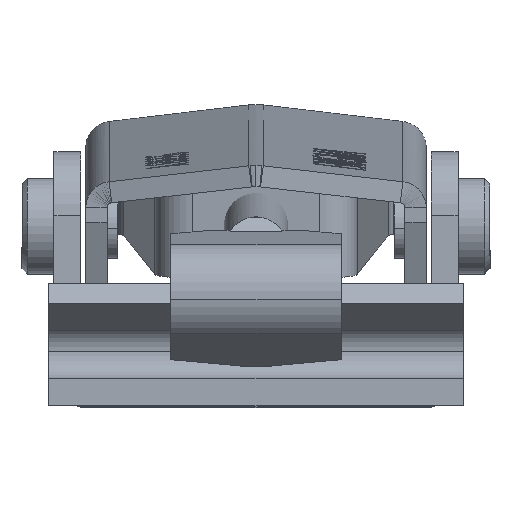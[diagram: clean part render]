
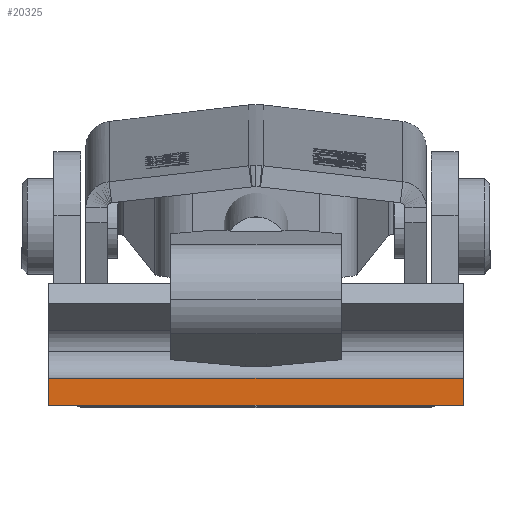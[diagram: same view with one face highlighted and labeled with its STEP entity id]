
A CAD part, top view. The second image highlights one B-rep face of the part: STEP entity #20325.
In plain terms, the highlighted planar face has unit normal (0, 0, 1).
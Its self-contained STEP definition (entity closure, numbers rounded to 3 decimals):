
#92 = DIRECTION ( 'NONE',  ( 0., 1., 0. ) ) ;
#162 = EDGE_CURVE ( 'NONE', #6212, #21099, #3795, .T. ) ;
#350 = EDGE_CURVE ( 'NONE', #6212, #4997, #7245, .T. ) ;
#1608 = CARTESIAN_POINT ( 'NONE',  ( -19.5, 0., 0. ) ) ;
#3155 = EDGE_CURVE ( 'NONE', #4997, #10912, #17261, .T. ) ;
#3197 = CARTESIAN_POINT ( 'NONE',  ( -19.5, 0., 0. ) ) ;
#3301 = DIRECTION ( 'NONE',  ( 0., 1., 0. ) ) ;
#3587 = PLANE ( 'NONE',  #14888 ) ;
#3693 = CARTESIAN_POINT ( 'NONE',  ( -19.5, 0., 0. ) ) ;
#3795 = LINE ( 'NONE', #11477, #13623 ) ;
#4890 = ORIENTED_EDGE ( 'NONE', *, *, #18185, .T. ) ;
#4997 = VERTEX_POINT ( 'NONE', #22286 ) ;
#5730 = DIRECTION ( 'NONE',  ( 0., 0., -1. ) ) ;
#6205 = VECTOR ( 'NONE', #3301, 1000. ) ;
#6212 = VERTEX_POINT ( 'NONE', #3197 ) ;
#7245 = LINE ( 'NONE', #1608, #6205 ) ;
#8317 = CARTESIAN_POINT ( 'NONE',  ( -19.5, 2.5, 0. ) ) ;
#9170 = VECTOR ( 'NONE', #10780, 1000. ) ;
#9988 = DIRECTION ( 'NONE',  ( 1., 0., 0. ) ) ;
#10780 = DIRECTION ( 'NONE',  ( 0., 1., 0. ) ) ;
#10912 = VERTEX_POINT ( 'NONE', #14171 ) ;
#11477 = CARTESIAN_POINT ( 'NONE',  ( -19.5, 0., 0. ) ) ;
#11956 = VECTOR ( 'NONE', #9988, 1000. ) ;
#13062 = DIRECTION ( 'NONE',  ( 1., 0., 0. ) ) ;
#13623 = VECTOR ( 'NONE', #13062, 1000. ) ;
#14171 = CARTESIAN_POINT ( 'NONE',  ( 19.5, 2.5, 0. ) ) ;
#14556 = ORIENTED_EDGE ( 'NONE', *, *, #162, .T. ) ;
#14888 = AXIS2_PLACEMENT_3D ( 'NONE', #3693, #5730, #92 ) ;
#16095 = LINE ( 'NONE', #17902, #9170 ) ;
#16128 = ORIENTED_EDGE ( 'NONE', *, *, #350, .F. ) ;
#17261 = LINE ( 'NONE', #8317, #11956 ) ;
#17902 = CARTESIAN_POINT ( 'NONE',  ( 19.5, 0., 0. ) ) ;
#18185 = EDGE_CURVE ( 'NONE', #21099, #10912, #16095, .T. ) ;
#20065 = CARTESIAN_POINT ( 'NONE',  ( 19.5, 0., 0. ) ) ;
#20299 = FACE_OUTER_BOUND ( 'NONE', #22093, .T. ) ;
#20325 = ADVANCED_FACE ( 'NONE', ( #20299 ), #3587, .F. ) ;
#20451 = ORIENTED_EDGE ( 'NONE', *, *, #3155, .F. ) ;
#21099 = VERTEX_POINT ( 'NONE', #20065 ) ;
#22093 = EDGE_LOOP ( 'NONE', ( #4890, #20451, #16128, #14556 ) ) ;
#22286 = CARTESIAN_POINT ( 'NONE',  ( -19.5, 2.5, 0. ) ) ;
